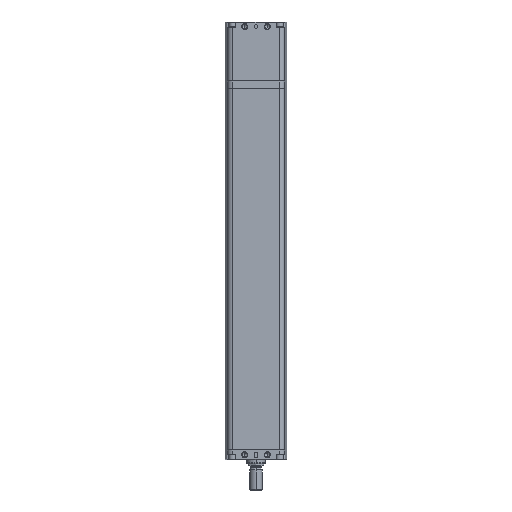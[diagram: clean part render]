
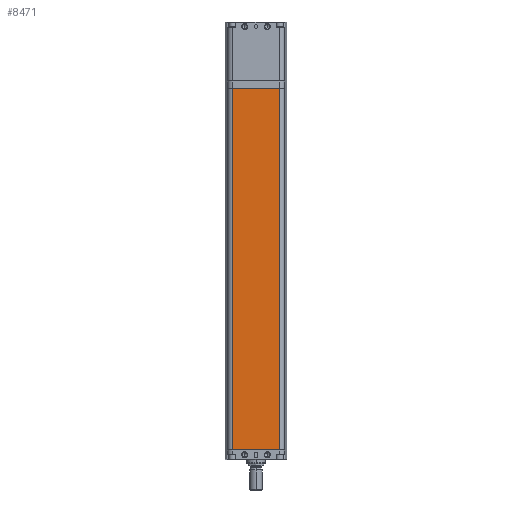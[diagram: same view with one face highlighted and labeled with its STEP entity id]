
A CAD part, front view. The second image highlights one B-rep face of the part: STEP entity #8471.
In plain terms, the highlighted planar face has unit normal (0, -1, 0).
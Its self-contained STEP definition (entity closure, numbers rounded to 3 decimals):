
#33 = DIRECTION ( 'NONE',  ( 0., 0., -1. ) ) ;
#243 = LINE ( 'NONE', #9536, #326 ) ;
#253 = DIRECTION ( 'NONE',  ( 1., 0., 0. ) ) ;
#326 = VECTOR ( 'NONE', #1961, 1000. ) ;
#1864 = FACE_OUTER_BOUND ( 'NONE', #16445, .T. ) ;
#1961 = DIRECTION ( 'NONE',  ( 0., 0., 1. ) ) ;
#2887 = DIRECTION ( 'NONE',  ( 0., 0., -1. ) ) ;
#3453 = ORIENTED_EDGE ( 'NONE', *, *, #15488, .T. ) ;
#3516 = VERTEX_POINT ( 'NONE', #18429 ) ;
#4520 = EDGE_CURVE ( 'NONE', #3516, #20313, #11873, .T. ) ;
#4792 = EDGE_CURVE ( 'NONE', #22156, #13638, #15378, .T. ) ;
#5848 = ORIENTED_EDGE ( 'NONE', *, *, #19191, .T. ) ;
#6972 = CARTESIAN_POINT ( 'NONE',  ( -31.138, -41., -551. ) ) ;
#7251 = PLANE ( 'NONE',  #19240 ) ;
#7617 = CARTESIAN_POINT ( 'NONE',  ( -41., -41., -1073. ) ) ;
#7852 = VECTOR ( 'NONE', #253, 1000. ) ;
#8471 = ADVANCED_FACE ( 'NONE', ( #1864 ), #7251, .T. ) ;
#9536 = CARTESIAN_POINT ( 'NONE',  ( 31.138, -41., -1073. ) ) ;
#9738 = CARTESIAN_POINT ( 'NONE',  ( -41., -41., -551. ) ) ;
#10414 = ORIENTED_EDGE ( 'NONE', *, *, #4792, .T. ) ;
#11612 = CARTESIAN_POINT ( 'NONE',  ( -41., -41., -73. ) ) ;
#11873 = LINE ( 'NONE', #11612, #7852 ) ;
#13638 = VERTEX_POINT ( 'NONE', #23754 ) ;
#13992 = CARTESIAN_POINT ( 'NONE',  ( 31.138, -41., -73. ) ) ;
#14507 = VECTOR ( 'NONE', #2887, 1000. ) ;
#14965 = DIRECTION ( 'NONE',  ( 0., -1., 0. ) ) ;
#15378 = LINE ( 'NONE', #9738, #23100 ) ;
#15481 = DIRECTION ( 'NONE',  ( 1., 0., 0. ) ) ;
#15488 = EDGE_CURVE ( 'NONE', #13638, #20313, #243, .T. ) ;
#16430 = LINE ( 'NONE', #23911, #14507 ) ;
#16445 = EDGE_LOOP ( 'NONE', ( #5848, #10414, #3453, #18999 ) ) ;
#18429 = CARTESIAN_POINT ( 'NONE',  ( -31.138, -41., -73. ) ) ;
#18999 = ORIENTED_EDGE ( 'NONE', *, *, #4520, .F. ) ;
#19191 = EDGE_CURVE ( 'NONE', #3516, #22156, #16430, .T. ) ;
#19240 = AXIS2_PLACEMENT_3D ( 'NONE', #7617, #14965, #33 ) ;
#20313 = VERTEX_POINT ( 'NONE', #13992 ) ;
#22156 = VERTEX_POINT ( 'NONE', #6972 ) ;
#23100 = VECTOR ( 'NONE', #15481, 1000. ) ;
#23754 = CARTESIAN_POINT ( 'NONE',  ( 31.138, -41., -551. ) ) ;
#23911 = CARTESIAN_POINT ( 'NONE',  ( -31.138, -41., -1073. ) ) ;
